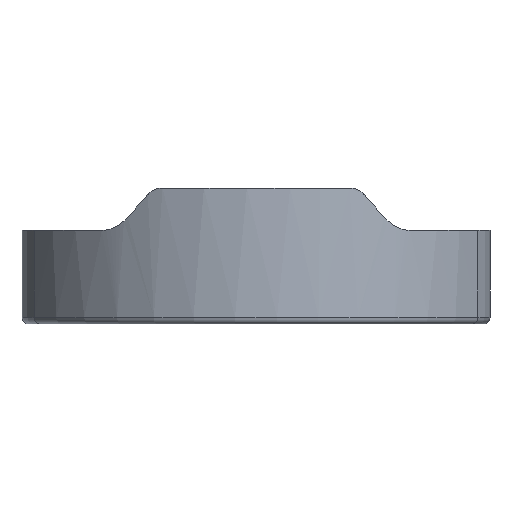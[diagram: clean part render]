
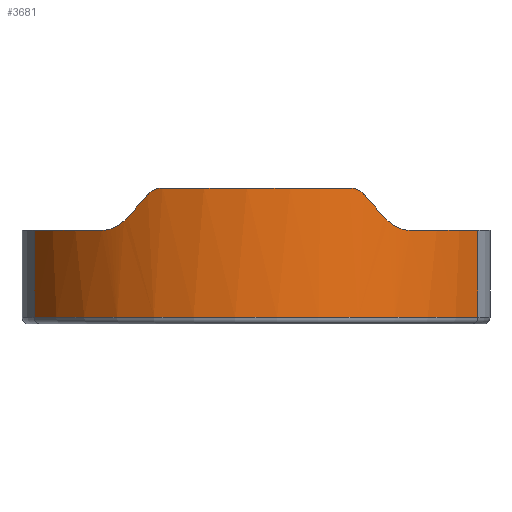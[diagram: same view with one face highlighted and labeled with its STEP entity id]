
A CAD part, front view. The second image highlights one B-rep face of the part: STEP entity #3681.
In plain terms, the highlighted cylindrical face has radius 11.175 mm (diameter 22.35 mm), a partial arc.
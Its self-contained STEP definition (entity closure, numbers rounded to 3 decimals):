
#499=CARTESIAN_POINT('Vertex',(5.756,-9.579,12.686)) ;
#503=CARTESIAN_POINT('Control Point',(6.92,-8.775,12.1)) ;
#504=CARTESIAN_POINT('Control Point',(6.611,-9.018,12.1)) ;
#505=CARTESIAN_POINT('Control Point',(6.29,-9.247,12.203)) ;
#506=CARTESIAN_POINT('Control Point',(5.994,-9.435,12.408)) ;
#507=CARTESIAN_POINT('Control Point',(5.756,-9.579,12.686)) ;
#508=CARTESIAN_POINT('Vertex',(6.92,-8.775,12.1)) ;
#669=CARTESIAN_POINT('Vertex',(4.853,-10.066,13.707)) ;
#675=CARTESIAN_POINT('Control Point',(4.853,-10.066,13.707)) ;
#676=CARTESIAN_POINT('Control Point',(5.162,-9.917,13.368)) ;
#677=CARTESIAN_POINT('Control Point',(5.463,-9.755,13.027)) ;
#678=CARTESIAN_POINT('Control Point',(5.756,-9.579,12.686)) ;
#734=CARTESIAN_POINT('Vertex',(-4.196,-10.357,14.)) ;
#740=CARTESIAN_POINT('Control Point',(-4.196,-10.357,14.)) ;
#741=CARTESIAN_POINT('Control Point',(-2.203,-11.165,14.)) ;
#742=CARTESIAN_POINT('Control Point',(0.,-11.461,14.)) ;
#743=CARTESIAN_POINT('Control Point',(2.203,-11.165,14.)) ;
#744=CARTESIAN_POINT('Control Point',(4.196,-10.357,14.)) ;
#745=CARTESIAN_POINT('Vertex',(4.196,-10.357,14.)) ;
#1417=CARTESIAN_POINT('Vertex',(-4.853,-10.066,13.707)) ;
#1421=CARTESIAN_POINT('Control Point',(-4.196,-10.357,14.)) ;
#1422=CARTESIAN_POINT('Control Point',(-4.38,-10.283,14.)) ;
#1423=CARTESIAN_POINT('Control Point',(-4.563,-10.203,13.95)) ;
#1424=CARTESIAN_POINT('Control Point',(-4.725,-10.128,13.847)) ;
#1425=CARTESIAN_POINT('Control Point',(-4.853,-10.066,13.707)) ;
#1443=CARTESIAN_POINT('Vertex',(-5.756,-9.579,12.686)) ;
#1447=CARTESIAN_POINT('Control Point',(-4.853,-10.066,13.707)) ;
#1448=CARTESIAN_POINT('Control Point',(-5.162,-9.917,13.368)) ;
#1449=CARTESIAN_POINT('Control Point',(-5.463,-9.755,13.027)) ;
#1450=CARTESIAN_POINT('Control Point',(-5.756,-9.579,12.686)) ;
#1606=CARTESIAN_POINT('Control Point',(4.196,-10.357,14.)) ;
#1607=CARTESIAN_POINT('Control Point',(4.38,-10.283,14.)) ;
#1608=CARTESIAN_POINT('Control Point',(4.563,-10.203,13.95)) ;
#1609=CARTESIAN_POINT('Control Point',(4.725,-10.128,13.847)) ;
#1610=CARTESIAN_POINT('Control Point',(4.853,-10.066,13.707)) ;
#1911=CARTESIAN_POINT('Vertex',(-6.92,-8.775,12.1)) ;
#1915=CARTESIAN_POINT('Control Point',(-6.92,-8.775,12.1)) ;
#1916=CARTESIAN_POINT('Control Point',(-6.611,-9.018,12.1)) ;
#1917=CARTESIAN_POINT('Control Point',(-6.29,-9.247,12.203)) ;
#1918=CARTESIAN_POINT('Control Point',(-5.994,-9.435,12.408)) ;
#1919=CARTESIAN_POINT('Control Point',(-5.756,-9.579,12.686)) ;
#2233=CARTESIAN_POINT('Vertex',(-9.953,-5.08,12.1)) ;
#2237=CARTESIAN_POINT('Control Point',(-9.953,-5.08,12.1)) ;
#2238=CARTESIAN_POINT('Control Point',(-9.406,-6.153,12.1)) ;
#2239=CARTESIAN_POINT('Control Point',(-8.704,-7.147,12.1)) ;
#2240=CARTESIAN_POINT('Control Point',(-7.865,-8.029,12.1)) ;
#2241=CARTESIAN_POINT('Control Point',(-6.92,-8.775,12.1)) ;
#2244=CARTESIAN_POINT('Control Point',(6.92,-8.775,12.1)) ;
#2245=CARTESIAN_POINT('Control Point',(7.865,-8.029,12.1)) ;
#2246=CARTESIAN_POINT('Control Point',(8.704,-7.147,12.1)) ;
#2247=CARTESIAN_POINT('Control Point',(9.406,-6.153,12.1)) ;
#2248=CARTESIAN_POINT('Control Point',(9.953,-5.08,12.1)) ;
#2249=CARTESIAN_POINT('Vertex',(9.953,-5.08,12.1)) ;
#3515=CARTESIAN_POINT('Line Origine',(-9.953,-5.08,10.95)) ;
#3519=CARTESIAN_POINT('Vertex',(-9.953,-5.08,8.2)) ;
#3589=CARTESIAN_POINT('Axis2P3D Location',(0.,0.,10.51)) ;
#3643=CARTESIAN_POINT('Line Origine',(9.953,-5.08,10.95)) ;
#3647=CARTESIAN_POINT('Vertex',(9.953,-5.08,8.2)) ;
#3662=CARTESIAN_POINT('Axis2P3D Location',(0.,0.,8.2)) ;
#3516=DIRECTION('Vector Direction',(0.,0.,-1.)) ;
#3590=DIRECTION('Axis2P3D Direction',(0.,0.,1.)) ;
#3591=DIRECTION('Axis2P3D XDirection',(1.,0.,0.)) ;
#3644=DIRECTION('Vector Direction',(0.,0.,1.)) ;
#3663=DIRECTION('Axis2P3D Direction',(0.,0.,1.)) ;
#3592=AXIS2_PLACEMENT_3D('Cylinder Axis2P3D',#3589,#3590,#3591) ;
#3664=AXIS2_PLACEMENT_3D('Circle Axis2P3D',#3662,#3663,$) ;
#3668=ORIENTED_EDGE('',*,*,#3649,.F.) ;
#3669=ORIENTED_EDGE('',*,*,#2251,.F.) ;
#3670=ORIENTED_EDGE('',*,*,#510,.T.) ;
#3671=ORIENTED_EDGE('',*,*,#679,.F.) ;
#3672=ORIENTED_EDGE('',*,*,#1611,.F.) ;
#3673=ORIENTED_EDGE('',*,*,#747,.T.) ;
#3674=ORIENTED_EDGE('',*,*,#1426,.F.) ;
#3675=ORIENTED_EDGE('',*,*,#1451,.F.) ;
#3676=ORIENTED_EDGE('',*,*,#1920,.T.) ;
#3677=ORIENTED_EDGE('',*,*,#2242,.F.) ;
#3678=ORIENTED_EDGE('',*,*,#3521,.T.) ;
#3679=ORIENTED_EDGE('',*,*,#3666,.T.) ;
#3517=VECTOR('Line Direction',#3516,1.) ;
#3645=VECTOR('Line Direction',#3644,1.) ;
#3681=ADVANCED_FACE('\X2\96F64EF651E04F554F53\X0\',(#3680),#3593,.T.) ;
#502=B_SPLINE_CURVE_WITH_KNOTS('',4,(#503,#504,#505,#506,#507),.UNSPECIFIED.,.F.,.U.,(5,5),(0.,2.223),.UNSPECIFIED.) ;
#674=B_SPLINE_CURVE_WITH_KNOTS('',3,(#675,#676,#677,#678),.UNSPECIFIED.,.F.,.U.,(4,4),(0.589,2.637),.UNSPECIFIED.) ;
#739=B_SPLINE_CURVE_WITH_KNOTS('',4,(#740,#741,#742,#743,#744),.UNSPECIFIED.,.F.,.U.,(5,5),(48.359,56.962),.UNSPECIFIED.) ;
#1420=B_SPLINE_CURVE_WITH_KNOTS('',4,(#1421,#1422,#1423,#1424,#1425),.UNSPECIFIED.,.F.,.U.,(5,5),(0.,1.125),.UNSPECIFIED.) ;
#1446=B_SPLINE_CURVE_WITH_KNOTS('',3,(#1447,#1448,#1449,#1450),.UNSPECIFIED.,.F.,.U.,(4,4),(0.589,2.637),.UNSPECIFIED.) ;
#1605=B_SPLINE_CURVE_WITH_KNOTS('',4,(#1606,#1607,#1608,#1609,#1610),.UNSPECIFIED.,.F.,.U.,(5,5),(0.,1.125),.UNSPECIFIED.) ;
#1914=B_SPLINE_CURVE_WITH_KNOTS('',4,(#1915,#1916,#1917,#1918,#1919),.UNSPECIFIED.,.F.,.U.,(5,5),(0.,2.223),.UNSPECIFIED.) ;
#2236=B_SPLINE_CURVE_WITH_KNOTS('',4,(#2237,#2238,#2239,#2240,#2241),.UNSPECIFIED.,.F.,.U.,(5,5),(40.381,45.199),.UNSPECIFIED.) ;
#2243=B_SPLINE_CURVE_WITH_KNOTS('',4,(#2244,#2245,#2246,#2247,#2248),.UNSPECIFIED.,.F.,.U.,(5,5),(60.123,64.941),.UNSPECIFIED.) ;
#3665=CIRCLE('generated circle',#3664,11.175) ;
#3593=CYLINDRICAL_SURFACE('generated cylinder',#3592,11.175) ;
#510=EDGE_CURVE('',#509,#500,#502,.T.) ;
#679=EDGE_CURVE('',#670,#500,#674,.T.) ;
#747=EDGE_CURVE('',#746,#735,#739,.F.) ;
#1426=EDGE_CURVE('',#1418,#735,#1420,.F.) ;
#1451=EDGE_CURVE('',#1444,#1418,#1446,.F.) ;
#1611=EDGE_CURVE('',#746,#670,#1605,.T.) ;
#1920=EDGE_CURVE('',#1444,#1912,#1914,.F.) ;
#2242=EDGE_CURVE('',#2234,#1912,#2236,.T.) ;
#2251=EDGE_CURVE('',#509,#2250,#2243,.T.) ;
#3521=EDGE_CURVE('',#2234,#3520,#3518,.T.) ;
#3649=EDGE_CURVE('',#2250,#3648,#3646,.F.) ;
#3666=EDGE_CURVE('',#3520,#3648,#3665,.T.) ;
#3667=EDGE_LOOP('',(#3668,#3669,#3670,#3671,#3672,#3673,#3674,#3675,#3676,#3677,#3678,#3679)) ;
#3680=FACE_OUTER_BOUND('',#3667,.T.) ;
#3518=LINE('Line',#3515,#3517) ;
#3646=LINE('Line',#3643,#3645) ;
#500=VERTEX_POINT('',#499) ;
#509=VERTEX_POINT('',#508) ;
#670=VERTEX_POINT('',#669) ;
#735=VERTEX_POINT('',#734) ;
#746=VERTEX_POINT('',#745) ;
#1418=VERTEX_POINT('',#1417) ;
#1444=VERTEX_POINT('',#1443) ;
#1912=VERTEX_POINT('',#1911) ;
#2234=VERTEX_POINT('',#2233) ;
#2250=VERTEX_POINT('',#2249) ;
#3520=VERTEX_POINT('',#3519) ;
#3648=VERTEX_POINT('',#3647) ;
